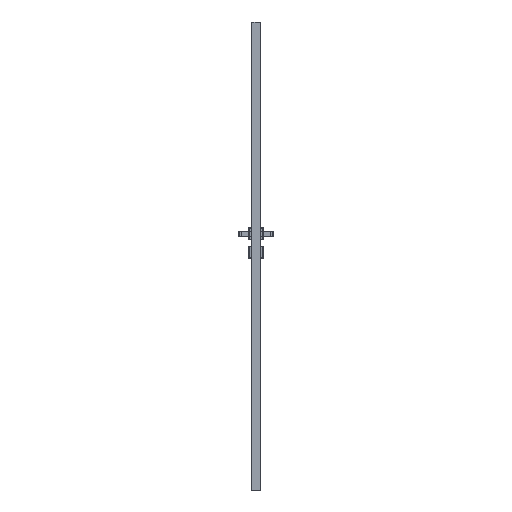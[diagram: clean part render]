
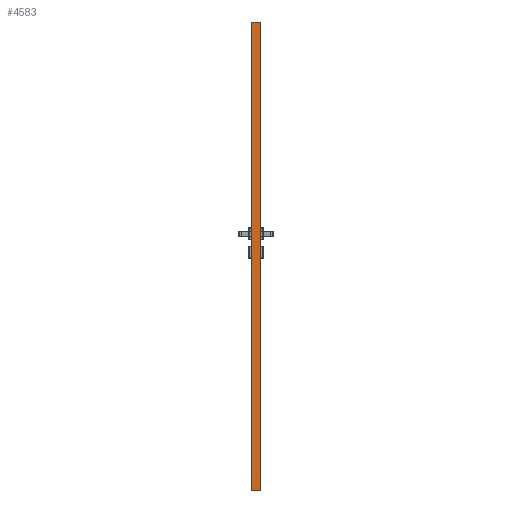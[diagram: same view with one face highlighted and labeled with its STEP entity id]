
A CAD part, left-side view. The second image highlights one B-rep face of the part: STEP entity #4583.
In plain terms, the highlighted planar face has unit normal (-1, 0, 0).
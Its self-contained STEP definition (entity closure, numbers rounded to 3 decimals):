
#2654=FACE_OUTER_BOUND('',#8757,.T.);
#4583=ADVANCED_FACE('',(#2654),#6118,.T.);
#6118=PLANE('',#34867);
#8757=EDGE_LOOP('',(#13406,#13407,#13408,#13409));
#13406=ORIENTED_EDGE('',*,*,#24436,.T.);
#13407=ORIENTED_EDGE('',*,*,#24437,.F.);
#13408=ORIENTED_EDGE('',*,*,#24434,.F.);
#13409=ORIENTED_EDGE('',*,*,#24438,.T.);
#20782=VERTEX_POINT('',#55652);
#20783=VERTEX_POINT('',#55654);
#20784=VERTEX_POINT('',#55658);
#20785=VERTEX_POINT('',#55659);
#24434=EDGE_CURVE('',#20782,#20783,#28407,.T.);
#24436=EDGE_CURVE('',#20784,#20785,#28408,.T.);
#24437=EDGE_CURVE('',#20783,#20785,#28409,.T.);
#24438=EDGE_CURVE('',#20782,#20784,#28410,.T.);
#28407=LINE('',#55653,#31532);
#28408=LINE('',#55657,#31533);
#28409=LINE('',#55660,#31534);
#28410=LINE('',#55661,#31535);
#31532=VECTOR('',#40248,1.);
#31533=VECTOR('',#40253,1.);
#31534=VECTOR('',#40254,1.);
#31535=VECTOR('',#40255,1.);
#34867=AXIS2_PLACEMENT_3D('',#55662,#40256,#40257);
#40248=DIRECTION('',(0.,0.,1.));
#40253=DIRECTION('',(0.,0.,1.));
#40254=DIRECTION('',(0.,-1.,0.));
#40255=DIRECTION('',(0.,-1.,0.));
#40256=DIRECTION('',(-1.,0.,0.));
#40257=DIRECTION('',(0.,-1.,0.));
#55652=CARTESIAN_POINT('',(-309.,-1.65,0.));
#55653=CARTESIAN_POINT('',(-309.,-1.65,0.));
#55654=CARTESIAN_POINT('',(-309.,-1.65,2017.01));
#55657=CARTESIAN_POINT('',(-309.,-38.35,0.));
#55658=CARTESIAN_POINT('',(-309.,-38.35,0.));
#55659=CARTESIAN_POINT('',(-309.,-38.35,2017.01));
#55660=CARTESIAN_POINT('',(-309.,0.,2017.01));
#55661=CARTESIAN_POINT('',(-309.,-1.65,0.));
#55662=CARTESIAN_POINT('',(-309.,-1.65,0.));
